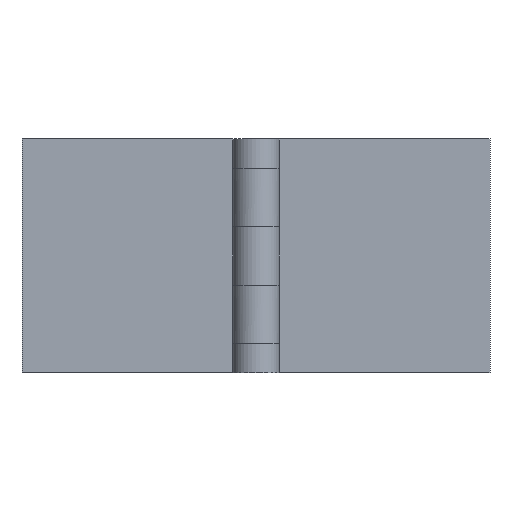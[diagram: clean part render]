
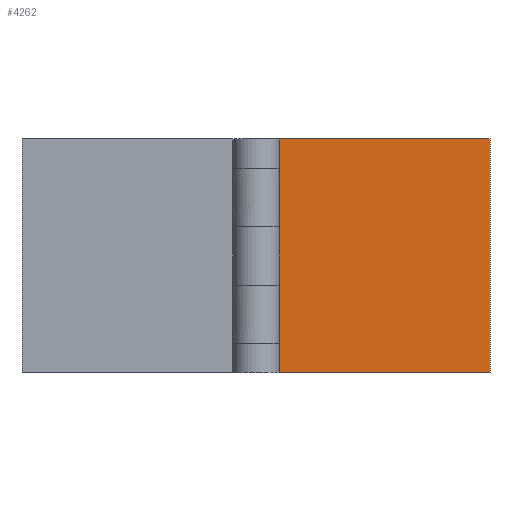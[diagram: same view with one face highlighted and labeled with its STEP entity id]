
A CAD part, front view. The second image highlights one B-rep face of the part: STEP entity #4262.
In plain terms, the highlighted planar face has unit normal (0, -1, 0).
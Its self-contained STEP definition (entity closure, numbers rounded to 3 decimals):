
#3704=CARTESIAN_POINT('',(39.278,-41.38,52.5));
#3705=VERTEX_POINT('',#3704);
#3713=CARTESIAN_POINT('',(39.278,-41.38,60.));
#3714=VERTEX_POINT('',#3713);
#3715=CARTESIAN_POINT('',(39.278,-41.38,52.5));
#3716=DIRECTION('',(0.0,0.0,1.0));
#3717=VECTOR('',#3716,7.5);
#3718=LINE('',#3715,#3717);
#3719=EDGE_CURVE('',#3705,#3714,#3718,.T.);
#3788=CARTESIAN_POINT('',(39.278,-41.38,0.));
#3789=VERTEX_POINT('',#3788);
#3797=CARTESIAN_POINT('',(39.278,-41.38,7.5));
#3798=VERTEX_POINT('',#3797);
#3799=CARTESIAN_POINT('',(39.278,-41.38,0.));
#3800=DIRECTION('',(0.0,0.0,1.0));
#3801=VECTOR('',#3800,7.5);
#3802=LINE('',#3799,#3801);
#3803=EDGE_CURVE('',#3789,#3798,#3802,.T.);
#3872=CARTESIAN_POINT('',(39.278,-41.38,22.5));
#3873=VERTEX_POINT('',#3872);
#3881=CARTESIAN_POINT('',(39.278,-41.38,37.5));
#3882=VERTEX_POINT('',#3881);
#3883=CARTESIAN_POINT('',(39.278,-41.38,22.5));
#3884=DIRECTION('',(0.0,0.0,1.0));
#3885=VECTOR('',#3884,15.0);
#3886=LINE('',#3883,#3885);
#3887=EDGE_CURVE('',#3873,#3882,#3886,.T.);
#4102=CARTESIAN_POINT('',(39.362,-41.38,52.5));
#4103=VERTEX_POINT('',#4102);
#4104=CARTESIAN_POINT('',(39.362,-41.38,37.5));
#4105=VERTEX_POINT('',#4104);
#4106=CARTESIAN_POINT('',(39.362,-41.38,52.5));
#4107=DIRECTION('',(0.0,0.0,-1.0));
#4108=VECTOR('',#4107,15.0);
#4109=LINE('',#4106,#4108);
#4110=EDGE_CURVE('',#4103,#4105,#4109,.T.);
#4142=CARTESIAN_POINT('',(39.362,-41.38,37.5));
#4143=DIRECTION('',(-1.0,0.0,0.0));
#4144=VECTOR('',#4143,0.084);
#4145=LINE('',#4142,#4144);
#4146=EDGE_CURVE('',#4105,#3882,#4145,.T.);
#4176=CARTESIAN_POINT('',(39.278,-41.38,52.5));
#4177=DIRECTION('',(1.0,0.0,0.0));
#4178=VECTOR('',#4177,0.084);
#4179=LINE('',#4176,#4178);
#4180=EDGE_CURVE('',#3705,#4103,#4179,.T.);
#4205=CARTESIAN_POINT('',(63.362,-41.38,30.));
#4206=DIRECTION('',(0.0,1.0,0.0));
#4207=DIRECTION('',(0.0,0.0,1.0));
#4208=AXIS2_PLACEMENT_3D('',#4205,#4206,#4207);
#4209=PLANE('',#4208);
#4210=ORIENTED_EDGE('',*,*,#4180,.T.);
#4211=ORIENTED_EDGE('',*,*,#4110,.T.);
#4212=ORIENTED_EDGE('',*,*,#4146,.T.);
#4213=ORIENTED_EDGE('',*,*,#3887,.F.);
#4214=CARTESIAN_POINT('',(39.362,-41.38,22.5));
#4215=VERTEX_POINT('',#4214);
#4216=CARTESIAN_POINT('',(39.278,-41.38,22.5));
#4217=DIRECTION('',(1.0,0.0,0.0));
#4218=VECTOR('',#4217,0.084);
#4219=LINE('',#4216,#4218);
#4220=EDGE_CURVE('',#3873,#4215,#4219,.T.);
#4221=ORIENTED_EDGE('',*,*,#4220,.T.);
#4222=CARTESIAN_POINT('',(39.362,-41.38,7.5));
#4223=VERTEX_POINT('',#4222);
#4224=CARTESIAN_POINT('',(39.362,-41.38,22.5));
#4225=DIRECTION('',(0.0,0.0,-1.0));
#4226=VECTOR('',#4225,15.0);
#4227=LINE('',#4224,#4226);
#4228=EDGE_CURVE('',#4215,#4223,#4227,.T.);
#4229=ORIENTED_EDGE('',*,*,#4228,.T.);
#4230=CARTESIAN_POINT('',(39.362,-41.38,7.5));
#4231=DIRECTION('',(-1.0,0.0,0.0));
#4232=VECTOR('',#4231,0.084);
#4233=LINE('',#4230,#4232);
#4234=EDGE_CURVE('',#4223,#3798,#4233,.T.);
#4235=ORIENTED_EDGE('',*,*,#4234,.T.);
#4236=ORIENTED_EDGE('',*,*,#3803,.F.);
#4237=CARTESIAN_POINT('',(93.362,-41.38,0.));
#4238=VERTEX_POINT('',#4237);
#4239=CARTESIAN_POINT('',(93.362,-41.38,0.));
#4240=DIRECTION('',(-1.0,0.0,0.0));
#4241=VECTOR('',#4240,54.084);
#4242=LINE('',#4239,#4241);
#4243=EDGE_CURVE('',#4238,#3789,#4242,.T.);
#4244=ORIENTED_EDGE('',*,*,#4243,.F.);
#4245=CARTESIAN_POINT('',(93.362,-41.38,60.));
#4246=VERTEX_POINT('',#4245);
#4247=CARTESIAN_POINT('',(93.362,-41.38,60.));
#4248=DIRECTION('',(0.0,0.0,-1.0));
#4249=VECTOR('',#4248,60.0);
#4250=LINE('',#4247,#4249);
#4251=EDGE_CURVE('',#4246,#4238,#4250,.T.);
#4252=ORIENTED_EDGE('',*,*,#4251,.F.);
#4253=CARTESIAN_POINT('',(39.278,-41.38,60.));
#4254=DIRECTION('',(1.0,0.0,0.0));
#4255=VECTOR('',#4254,54.084);
#4256=LINE('',#4253,#4255);
#4257=EDGE_CURVE('',#3714,#4246,#4256,.T.);
#4258=ORIENTED_EDGE('',*,*,#4257,.F.);
#4259=ORIENTED_EDGE('',*,*,#3719,.F.);
#4260=EDGE_LOOP('',(#4210,#4211,#4212,#4213,#4221,#4229,#4235,#4236,#4244,#4252,#4258,#4259));
#4261=FACE_OUTER_BOUND('',#4260,.T.);
#4262=ADVANCED_FACE('',(#4261),#4209,.F.);
